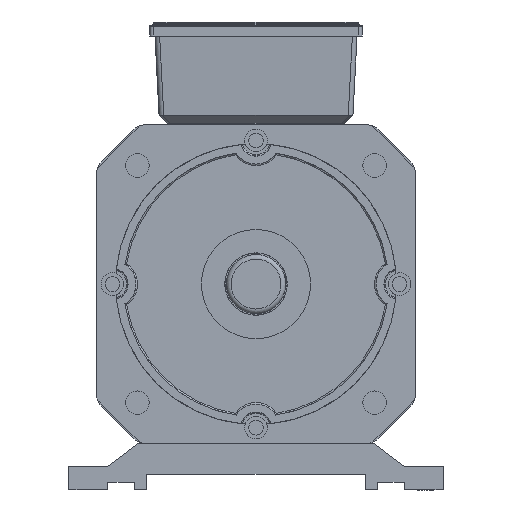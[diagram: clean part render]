
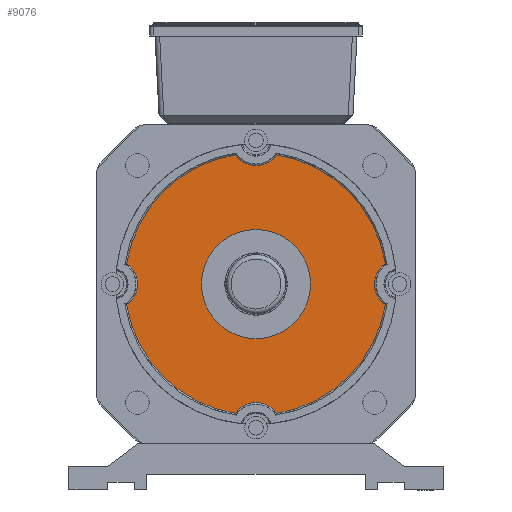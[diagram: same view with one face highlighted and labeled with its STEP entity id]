
A CAD part, front view. The second image highlights one B-rep face of the part: STEP entity #9076.
In plain terms, the highlighted planar face has unit normal (0, -1, 0).
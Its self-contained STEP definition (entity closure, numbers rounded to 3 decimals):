
#7303=PLANE('',#33375);
#9076=ADVANCED_FACE('',(#10428,#10429),#7303,.T.);
#10428=FACE_BOUND('',#12407,.T.);
#10429=FACE_BOUND('',#12408,.T.);
#12407=EDGE_LOOP('',(#20766,#20767,#20768,#20769,#20770,#20771,#20772,#20773));
#12408=EDGE_LOOP('',(#20774));
#20766=ORIENTED_EDGE('',*,*,#28236,.T.);
#20767=ORIENTED_EDGE('',*,*,#28587,.T.);
#20768=ORIENTED_EDGE('',*,*,#28588,.T.);
#20769=ORIENTED_EDGE('',*,*,#28589,.T.);
#20770=ORIENTED_EDGE('',*,*,#28590,.T.);
#20771=ORIENTED_EDGE('',*,*,#28591,.T.);
#20772=ORIENTED_EDGE('',*,*,#28244,.T.);
#20773=ORIENTED_EDGE('',*,*,#28345,.T.);
#20774=ORIENTED_EDGE('',*,*,#28592,.T.);
#24010=VERTEX_POINT('',#60017);
#24011=VERTEX_POINT('',#60019);
#24017=VERTEX_POINT('',#60054);
#24018=VERTEX_POINT('',#60056);
#24231=VERTEX_POINT('',#61609);
#24232=VERTEX_POINT('',#61611);
#24233=VERTEX_POINT('',#61613);
#24234=VERTEX_POINT('',#61615);
#24235=VERTEX_POINT('',#61618);
#28236=EDGE_CURVE('',#24011,#24010,#30253,.T.);
#28244=EDGE_CURVE('',#24018,#24017,#30257,.T.);
#28345=EDGE_CURVE('',#24017,#24011,#30277,.T.);
#28587=EDGE_CURVE('',#24010,#24231,#30362,.T.);
#28588=EDGE_CURVE('',#24231,#24232,#30363,.T.);
#28589=EDGE_CURVE('',#24232,#24233,#30364,.T.);
#28590=EDGE_CURVE('',#24233,#24234,#30365,.T.);
#28591=EDGE_CURVE('',#24234,#24018,#30366,.T.);
#28592=EDGE_CURVE('',#24235,#24235,#30367,.T.);
#30253=CIRCLE('',#33128,83.93);
#30257=CIRCLE('',#33134,83.93);
#30277=CIRCLE('',#33188,16.07);
#30362=CIRCLE('',#33369,16.07);
#30363=CIRCLE('',#33370,83.93);
#30364=CIRCLE('',#33371,16.07);
#30365=CIRCLE('',#33372,83.93);
#30366=CIRCLE('',#33373,16.07);
#30367=CIRCLE('',#33374,35.);
#33128=AXIS2_PLACEMENT_3D('',#60018,#39939,#39940);
#33134=AXIS2_PLACEMENT_3D('',#60055,#39951,#39952);
#33188=AXIS2_PLACEMENT_3D('',#60454,#40091,#40092);
#33369=AXIS2_PLACEMENT_3D('',#61608,#40519,#40520);
#33370=AXIS2_PLACEMENT_3D('',#61610,#40521,#40522);
#33371=AXIS2_PLACEMENT_3D('',#61612,#40523,#40524);
#33372=AXIS2_PLACEMENT_3D('',#61614,#40525,#40526);
#33373=AXIS2_PLACEMENT_3D('',#61616,#40527,#40528);
#33374=AXIS2_PLACEMENT_3D('',#61617,#40529,#40530);
#33375=AXIS2_PLACEMENT_3D('',#61619,#40531,#40532);
#39939=DIRECTION('',(0.,-1.,0.));
#39940=DIRECTION('',(0.,0.,-1.));
#39951=DIRECTION('',(0.,-1.,0.));
#39952=DIRECTION('',(0.,0.,-1.));
#40091=DIRECTION('',(0.,1.,0.));
#40092=DIRECTION('',(0.,0.,-1.));
#40519=DIRECTION('',(0.,1.,0.));
#40520=DIRECTION('',(0.,0.,1.));
#40521=DIRECTION('',(0.,-1.,0.));
#40522=DIRECTION('',(0.,0.,1.));
#40523=DIRECTION('',(0.,1.,0.));
#40524=DIRECTION('',(0.,0.,1.));
#40525=DIRECTION('',(0.,-1.,0.));
#40526=DIRECTION('',(0.,0.,1.));
#40527=DIRECTION('',(0.,1.,0.));
#40528=DIRECTION('',(0.,0.,1.));
#40529=DIRECTION('',(0.,1.,0.));
#40530=DIRECTION('',(0.,0.,1.));
#40531=DIRECTION('',(0.,-1.,0.));
#40532=DIRECTION('',(1.,0.,0.));
#60017=CARTESIAN_POINT('',(253.31,226.506,94.746));
#60018=CARTESIAN_POINT('',(170.43,226.506,107.978));
#60019=CARTESIAN_POINT('',(183.662,226.506,25.098));
#60054=CARTESIAN_POINT('',(157.198,226.506,25.098));
#60055=CARTESIAN_POINT('',(170.43,226.506,107.978));
#60056=CARTESIAN_POINT('',(87.55,226.506,94.746));
#60454=CARTESIAN_POINT('',(170.43,226.506,15.978));
#61608=CARTESIAN_POINT('',(262.43,226.506,107.978));
#61609=CARTESIAN_POINT('',(253.31,226.506,121.21));
#61610=CARTESIAN_POINT('',(170.43,226.506,107.978));
#61611=CARTESIAN_POINT('',(183.662,226.506,190.858));
#61612=CARTESIAN_POINT('',(170.43,226.506,199.978));
#61613=CARTESIAN_POINT('',(157.198,226.506,190.858));
#61614=CARTESIAN_POINT('',(170.43,226.506,107.978));
#61615=CARTESIAN_POINT('',(87.55,226.506,121.21));
#61616=CARTESIAN_POINT('',(78.43,226.506,107.978));
#61617=CARTESIAN_POINT('',(170.43,226.506,107.978));
#61618=CARTESIAN_POINT('',(170.43,226.506,142.978));
#61619=CARTESIAN_POINT('',(170.43,226.506,107.978));
